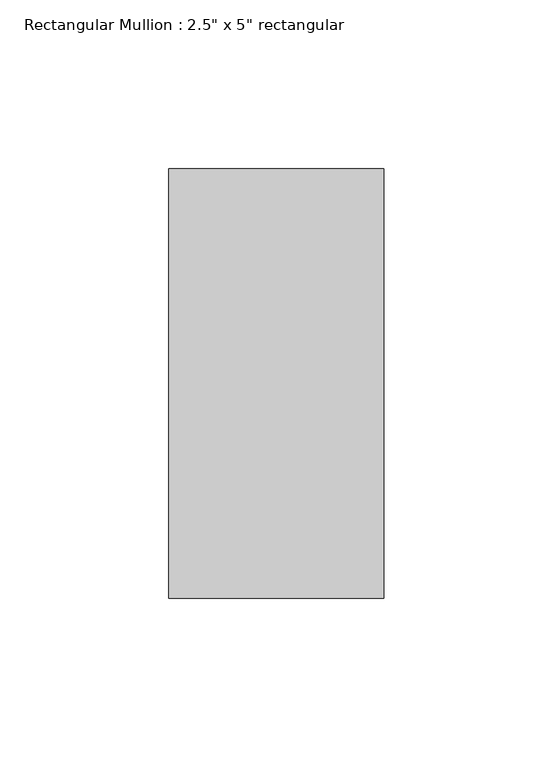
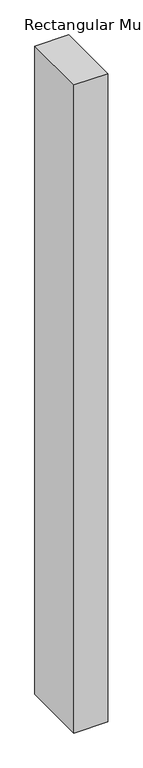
"""IFC4 building model written with IfcOpenShell, lengths in millimetres: member geometry."""

from ifc_helpers import new_model, si_unit, frame, origin, place, context, project, spatial, polyline, outline, extrude, source, transform, mapped, element, save


def member_aae1cefe(model_context):
    return source(origin(), model_context, "Body", "SweptSolid", [
        extrude(outline(polyline([(0.0, 63.5), (0.0, -63.5), (-63.5, -63.5), (-63.5, 63.5), (0.0, 63.5)])), frame((0.0, 0.0, -1289.84375), z_axis=(0.0, 0.0, 1.0), x_axis=(1.0, 0.0, 0.0)), (0.0, 0.0, 1.0), 1289.84375),
    ])


if __name__ == "__main__":
    model = new_model("IFC4")
    model_context = context("Model", 3, world=origin())
    ifc_project = project(units=[si_unit("LENGTHUNIT", "METRE", prefix="MILLI")], contexts=[model_context])
    site = spatial("IfcSite", under=ifc_project)
    building = spatial("IfcBuilding", under=site)
    placement = place(None, origin())
    member_shape = member_aae1cefe(model_context)
    element("IfcMember", 1, ObjectType="Rectangular Mullion : 2.5\" x 5\" rectangular", at=placement, inside=building, context=model_context, shape_type="MappedRepresentation", body=[
        mapped(member_shape, transform((0.0, 0.0, 0.0), x_axis=(1.0, 0.0, 0.0), y_axis=(0.0, 1.0, 0.0), z_axis=(0.0, 0.0, 1.0))),
    ])
    save(model, "model.ifc")
